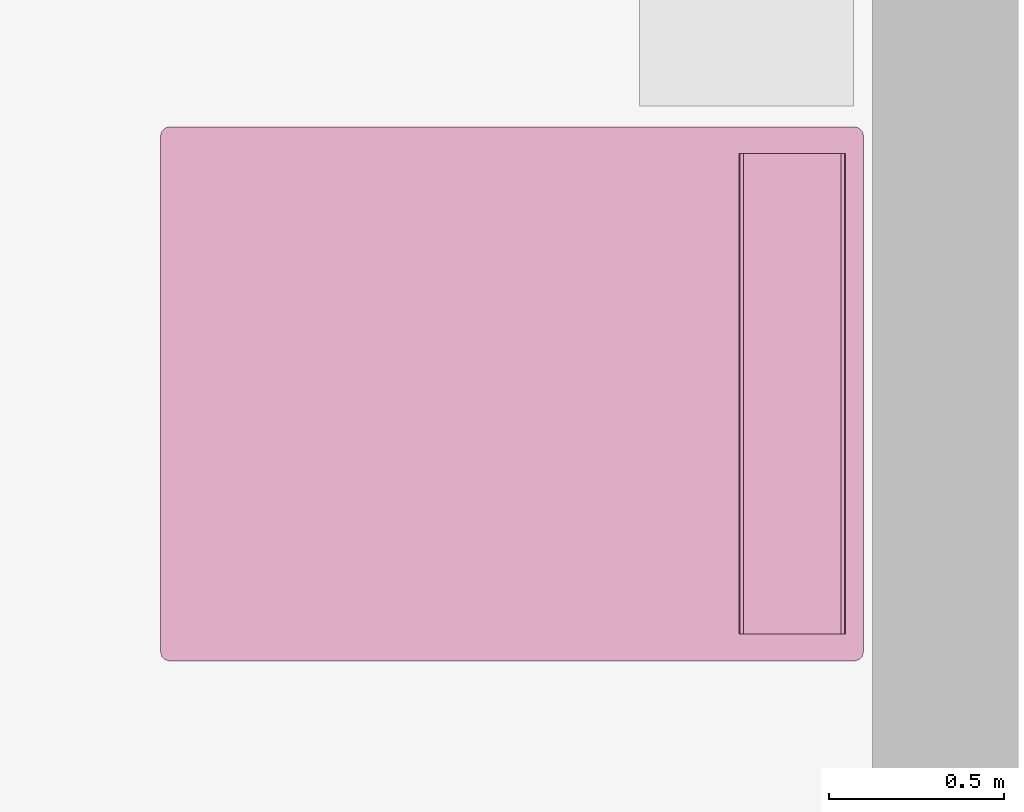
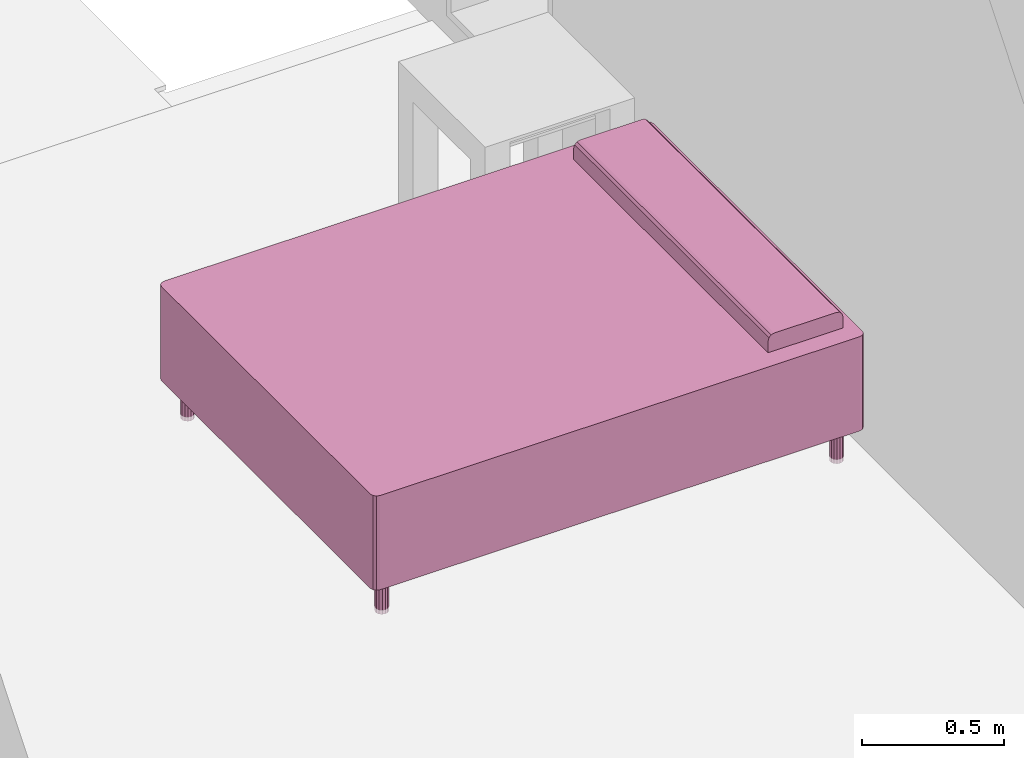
# One storey, part 9 of 16: 1 furnishing.
"""IFC4 building model written with IfcOpenShell, lengths in metres."""

from ifc_helpers import new_model, entity, si_unit, converted_unit, frame, origin, place, context, project, spatial, face_set, surface_model, source, transform, mapped, type_object, type_shapes, element, save


model = new_model("IFC4")

# Units and contexts
model_context = context("Model", 3, precision=1e-09, world=origin())
plan_context = context("Plan", 3, precision=1e-09, world=origin())
ifc_project = project(units=[si_unit("LENGTHUNIT", "METRE"), si_unit("AREAUNIT", "SQUARE_METRE"), si_unit("VOLUMEUNIT", "CUBIC_METRE"), converted_unit("PLANEANGLEUNIT", "DEGREE", entity("IfcRatioMeasure", 0.01745329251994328), si_unit("PLANEANGLEUNIT", "RADIAN"), dimensions=[0, 0, 0, 0, 0, 0, 0]), si_unit("TIMEUNIT", "SECOND")], contexts=[model_context, plan_context])

# Site, building, storey, space
site_placement = place(None, origin())
site = spatial("IfcSite", under=ifc_project, at=site_placement, Name="Default", CompositionType="ELEMENT")
building_placement = place(site_placement, origin())
building = spatial("IfcBuilding", under=site, at=building_placement, CompositionType="ELEMENT")
storey_placement = place(building_placement, frame((0.0, 0.0, 3.100000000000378)))
storey = spatial("IfcBuildingStorey", under=building, at=storey_placement, Name="Level 2", CompositionType="ELEMENT", Elevation=3.100000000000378)
space_placement = place(storey_placement, origin())
space = spatial("IfcSpace", under=storey, at=space_placement, Name="A203", CompositionType="ELEMENT", PredefinedType="SPACE")

# Furnishing
furniture_type = type_object("IfcFurnitureType", Name="1525 x 2007mm - Queen", AssemblyPlace="NOTDEFINED")
shared_shape = source(origin(), model_context, "Body", "SurfaceModel", [
    surface_model("IfcFaceBasedSurfaceModel", [(0.001595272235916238, 0.02699527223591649, 0.3556), (0.001595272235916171, 1.983195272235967, 0.3556), (0.004998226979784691, 1.995895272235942, 0.3556), (0.01429527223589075, 2.005192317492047, 0.3556), (0.02699527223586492, 2.008595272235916, 0.3556), (1.501195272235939, 2.008595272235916, 0.3556), (1.513895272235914, 2.005192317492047, 0.3556), (1.523192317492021, 1.995895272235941, 0.3556), (1.52659527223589, 1.983195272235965, 0.3556), (1.52659527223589, 0.02699527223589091, 0.3556), (1.523192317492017, 0.01429527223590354, 0.3556), (1.513895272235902, 0.004998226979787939, 0.3556), (1.501195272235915, 0.001595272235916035, 0.3556), (0.02699527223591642, 0.001595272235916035, 0.3556), (0.01429527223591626, 0.004998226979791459, 0.3556), (0.004998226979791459, 0.0142952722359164, 0.3556), (0.001595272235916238, 0.02699527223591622, 0.1524), (0.001595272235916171, 1.983195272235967, 0.1524), (0.004998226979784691, 1.995895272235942, 0.1524), (0.01429527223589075, 2.005192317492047, 0.1524), (0.02699527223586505, 2.008595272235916, 0.1524), (1.501195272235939, 2.008595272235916, 0.1524), (1.513895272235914, 2.005192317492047, 0.1524), (1.523192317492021, 1.995895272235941, 0.1524), (1.52659527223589, 1.983195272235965, 0.1524), (1.52659527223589, 0.02699527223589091, 0.1524), (1.523192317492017, 0.01429527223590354, 0.1524), (1.513895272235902, 0.004998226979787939, 0.1524), (1.501195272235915, 0.001595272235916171, 0.1524), (0.02699527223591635, 0.001595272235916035, 0.1524), (0.01429527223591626, 0.004998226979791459, 0.1524), (0.004998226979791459, 0.0142952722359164, 0.1524), (0.003559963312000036, 0.01966295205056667, 0.1524000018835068), (0.003296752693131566, 0.02064530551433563, 0.3555999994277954), (0.0096467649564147, 0.009646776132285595, 0.3555999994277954), (0.0096467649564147, 0.009646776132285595, 0.1524000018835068), (0.02064525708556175, 0.003296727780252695, 0.1524000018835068), (0.01966294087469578, 0.003559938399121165, 0.3555999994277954), (1.508527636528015, 0.003559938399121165, 0.1524000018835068), (1.507545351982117, 0.003296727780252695, 0.3555999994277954), (1.518543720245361, 0.009646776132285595, 0.3555999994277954), (1.518543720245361, 0.009646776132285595, 0.1524000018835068), (1.524893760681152, 0.02064530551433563, 0.1524000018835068), (1.524630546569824, 0.01966295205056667, 0.3555999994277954), (1.524893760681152, 1.989545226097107, 0.3555999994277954), (1.524893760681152, 1.989545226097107, 0.1524000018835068), (1.518543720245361, 2.000543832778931, 0.3555999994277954), (1.518543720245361, 2.000543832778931, 0.1524000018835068), (1.507545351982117, 2.006893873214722, 0.1524000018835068), (1.508527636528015, 2.006630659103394, 0.3555999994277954), (0.01966294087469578, 2.006630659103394, 0.1524000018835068), (0.02064525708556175, 2.006893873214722, 0.3555999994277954), (0.0096467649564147, 2.000543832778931, 0.3555999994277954), (0.0096467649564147, 2.000543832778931, 0.1524000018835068), (0.003296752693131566, 1.989545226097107, 0.1524000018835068), (0.003559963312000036, 1.990527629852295, 0.3555999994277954), (0.07779527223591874, 1.652995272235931, 0.5588000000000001), (0.07779527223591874, 1.652995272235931, 0.6096), (0.07779527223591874, 1.656398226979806, 0.6223), (0.07779527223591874, 1.665695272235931, 0.6315970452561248), (0.07779527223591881, 1.678395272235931, 0.6349999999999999), (0.07779527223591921, 1.932395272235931, 0.6349999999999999), (0.07779527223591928, 1.945095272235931, 0.6315970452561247), (0.07779527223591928, 1.954392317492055, 0.6222999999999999), (0.07779527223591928, 1.957795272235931, 0.6095999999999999), (0.07779527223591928, 1.957795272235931, 0.5588000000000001), (1.45039527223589, 1.652995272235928, 0.5588000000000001), (1.450395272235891, 1.957795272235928, 0.5588000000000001), (1.450395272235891, 1.957795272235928, 0.6095999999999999), (1.450395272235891, 1.954392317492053, 0.6222999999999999), (1.450395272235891, 1.945095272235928, 0.6315970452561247), (1.450395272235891, 1.932395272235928, 0.6349999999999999), (1.45039527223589, 1.678395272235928, 0.6349999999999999), (1.45039527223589, 1.665695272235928, 0.6315970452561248), (1.45039527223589, 1.656398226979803, 0.6223), (1.45039527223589, 1.652995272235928, 0.6096), (0.07779525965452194, 1.655322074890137, 0.6182838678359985), (1.450395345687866, 1.654696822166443, 0.6159499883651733), (0.07779525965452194, 1.654158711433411, 0.6139419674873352), (0.07779525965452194, 1.674053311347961, 0.6338366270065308), (1.450395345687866, 1.672045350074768, 0.6332985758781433), (0.07779525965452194, 1.661046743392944, 0.6269484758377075), (1.450395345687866, 1.661046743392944, 0.6269484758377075), (0.07779525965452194, 1.669711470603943, 0.6326731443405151), (1.450395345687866, 1.941079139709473, 0.6326731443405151), (0.07779525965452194, 1.956631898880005, 0.6139419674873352), (1.450395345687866, 1.956093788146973, 0.6159499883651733), (0.07779525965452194, 1.938745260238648, 0.6332985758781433), (1.450395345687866, 1.936737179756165, 0.6338366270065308), (0.07779525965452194, 1.949743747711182, 0.6269484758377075), (1.450395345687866, 1.949743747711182, 0.6269484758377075), (0.07779525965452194, 1.955468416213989, 0.6182838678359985), (0.1031952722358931, 1.932395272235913, 0.1524), (0.1006798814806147, 1.921374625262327, 0.1524), (0.09363191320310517, 1.912536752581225, 0.1524), (0.08344730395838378, 1.907632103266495, 0.1524), (0.0721432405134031, 1.907632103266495, 0.1524), (0.06195863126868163, 1.912536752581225, 0.1524), (0.05491066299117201, 1.921374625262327, 0.1524), (0.05239527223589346, 1.932395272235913, 0.1524), (0.05491066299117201, 1.943415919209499, 0.1524), (0.06195863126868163, 1.9522537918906, 0.1524), (0.07214324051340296, 1.957158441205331, 0.1524), (0.0834473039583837, 1.957158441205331, 0.1524), (0.09363191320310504, 1.9522537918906, 0.1524), (0.1006798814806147, 1.943415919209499, 0.1524), (1.475795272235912, 1.93239527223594, 0.1524), (1.473279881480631, 1.921374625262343, 0.1524), (1.466231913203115, 1.912536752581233, 0.1524), (1.456047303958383, 1.907632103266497, 0.1524), (1.444743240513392, 1.907632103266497, 0.1524), (1.434558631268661, 1.912536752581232, 0.1524), (1.427510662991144, 1.921374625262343, 0.1524), (1.424995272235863, 1.932395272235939, 0.1524), (1.427510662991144, 1.943415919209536, 0.1524), (1.434558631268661, 1.952253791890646, 0.1524), (1.444743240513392, 1.957158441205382, 0.1524), (1.456047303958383, 1.957158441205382, 0.1524), (1.466231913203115, 1.952253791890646, 0.1524), (1.473279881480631, 1.943415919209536, 0.1524), (1.475795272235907, 0.07779527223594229, 0.1524), (1.473279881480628, 0.06677462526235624, 0.1524), (1.466231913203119, 0.05793675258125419, 0.1524), (1.456047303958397, 0.05303210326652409, 0.1524), (1.444743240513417, 0.05303210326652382, 0.1524), (1.434558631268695, 0.05793675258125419, 0.1524), (1.427510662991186, 0.06677462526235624, 0.1524), (1.424995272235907, 0.07779527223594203, 0.1524), (1.427510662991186, 0.08881591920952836, 0.1524), (1.434558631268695, 0.09765379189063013, 0.1524), (1.444743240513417, 0.1025584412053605, 0.1524), (1.456047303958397, 0.1025584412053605, 0.1524), (1.466231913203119, 0.09765379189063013, 0.1524), (1.473279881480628, 0.0888159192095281, 0.1524), (0.1031952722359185, 0.07779527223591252, 0.1524), (0.1006798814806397, 0.0667746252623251, 0.1524), (0.0936319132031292, 0.0579367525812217, 0.1524), (0.08344730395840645, 0.05303210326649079, 0.1524), (0.07214324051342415, 0.05303210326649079, 0.1524), (0.06195863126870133, 0.0579367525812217, 0.1524), (0.05491066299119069, 0.06677462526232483, 0.1524), (0.0523952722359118, 0.07779527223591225, 0.1524), (0.05491066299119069, 0.08881591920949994, 0.1524), (0.06195863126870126, 0.09765379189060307, 0.1524), (0.07214324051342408, 0.102558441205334, 0.1524), (0.08344730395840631, 0.102558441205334, 0.1524), (0.09363191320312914, 0.09765379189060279, 0.1524), (0.1006798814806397, 0.08881591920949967, 0.1524), (0.1031952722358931, 1.932395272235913, 0.0), (0.1006798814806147, 1.921374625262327, 0.0), (0.09363191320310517, 1.912536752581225, 0.0), (0.08344730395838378, 1.907632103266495, 0.0), (0.0721432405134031, 1.907632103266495, 0.0), (0.06195863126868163, 1.912536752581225, 0.0), (0.05491066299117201, 1.921374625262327, 0.0), (0.05239527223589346, 1.932395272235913, 0.0), (0.05491066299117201, 1.943415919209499, 0.0), (0.06195863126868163, 1.9522537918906, 0.0), (0.07214324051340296, 1.957158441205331, 0.0), (0.0834473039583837, 1.957158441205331, 0.0), (0.09363191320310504, 1.9522537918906, 0.0), (0.1006798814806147, 1.943415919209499, 0.0), (1.475795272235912, 1.932395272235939, 0.0), (1.473279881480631, 1.921374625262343, 0.0), (1.466231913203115, 1.912536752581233, 0.0), (1.456047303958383, 1.907632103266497, 0.0), (1.444743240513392, 1.907632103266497, 0.0), (1.434558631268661, 1.912536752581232, 0.0), (1.427510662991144, 1.921374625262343, 0.0), (1.424995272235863, 1.93239527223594, 0.0), (1.427510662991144, 1.943415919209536, 0.0), (1.434558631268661, 1.952253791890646, 0.0), (1.444743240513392, 1.957158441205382, 0.0), (1.456047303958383, 1.957158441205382, 0.0), (1.466231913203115, 1.952253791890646, 0.0), (1.473279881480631, 1.943415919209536, 0.0), (1.475795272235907, 0.07779527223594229, 0.0), (1.473279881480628, 0.06677462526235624, 0.0), (1.466231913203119, 0.05793675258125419, 0.0), (1.456047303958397, 0.05303210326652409, 0.0), (1.444743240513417, 0.05303210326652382, 0.0), (1.434558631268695, 0.05793675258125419, 0.0), (1.427510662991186, 0.06677462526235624, 0.0), (1.424995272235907, 0.07779527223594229, 0.0), (1.427510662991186, 0.08881591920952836, 0.0), (1.434558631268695, 0.09765379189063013, 0.0), (1.444743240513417, 0.1025584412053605, 0.0), (1.456047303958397, 0.1025584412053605, 0.0), (1.466231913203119, 0.09765379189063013, 0.0), (1.473279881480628, 0.0888159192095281, 0.0), (0.1031952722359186, 0.07779527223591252, 0.0), (0.1006798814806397, 0.0667746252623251, 0.0), (0.0936319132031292, 0.0579367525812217, 0.0), (0.08344730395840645, 0.05303210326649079, 0.0), (0.07214324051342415, 0.05303210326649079, 0.0), (0.06195863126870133, 0.0579367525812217, 0.0), (0.05491066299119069, 0.06677462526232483, 0.0), (0.05239527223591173, 0.07779527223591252, 0.0), (0.05491066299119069, 0.08881591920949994, 0.0), (0.06195863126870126, 0.09765379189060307, 0.0), (0.07214324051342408, 0.102558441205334, 0.0), (0.08344730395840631, 0.102558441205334, 0.0), (0.09363191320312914, 0.09765379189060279, 0.0), (0.1006798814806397, 0.08881591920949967, 0.0), (0.05365298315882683, 1.926885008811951, 0.1524000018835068), (0.0584346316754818, 1.916955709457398, 0.0), (0.0584346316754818, 1.916955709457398, 0.1524000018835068), (0.1020657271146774, 1.927446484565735, 0.1524000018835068), (0.1019375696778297, 1.926885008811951, 0.0), (0.06705092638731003, 1.910084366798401, 0.0), (0.06705092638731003, 1.910084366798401, 0.1524000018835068), (0.05352479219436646, 1.927446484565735, 0.0), (0.07779525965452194, 1.907632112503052, 0.1524000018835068), (0.07779525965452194, 1.907632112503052, 0.0), (0.08853962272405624, 1.910084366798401, 0.0), (0.08853962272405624, 1.910084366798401, 0.1524000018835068), (0.09715588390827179, 1.916955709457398, 0.1524000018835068), (0.09715588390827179, 1.916955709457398, 0.0), (0.1020657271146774, 1.937344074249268, 0.0), (0.1019375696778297, 1.937905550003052, 0.1524000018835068), (0.09715588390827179, 1.947834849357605, 0.0), (0.09715588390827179, 1.947834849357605, 0.1524000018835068), (0.08853962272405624, 1.954706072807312, 0.1524000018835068), (0.08853962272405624, 1.954706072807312, 0.0), (0.07779525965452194, 1.957158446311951, 0.1524000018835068), (0.07779525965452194, 1.957158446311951, 0.0), (0.06705092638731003, 1.954706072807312, 0.1524000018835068), (0.06705092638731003, 1.954706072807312, 0.0), (0.05352479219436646, 1.937344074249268, 0.1524000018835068), (0.0584346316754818, 1.947834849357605, 0.1524000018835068), (0.0584346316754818, 1.947834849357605, 0.0), (0.05365298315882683, 1.937905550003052, 0.0), (1.426252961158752, 1.926885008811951, 0.1524000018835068), (1.431034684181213, 1.916955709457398, 0.0), (1.431034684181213, 1.916955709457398, 0.1524000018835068), (1.47453761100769, 1.926885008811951, 0.0), (1.474665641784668, 1.927446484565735, 0.1524000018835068), (1.439650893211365, 1.910084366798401, 0.0), (1.439650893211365, 1.910084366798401, 0.1524000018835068), (1.426124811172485, 1.927446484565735, 0.0), (1.450395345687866, 1.907632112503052, 0.1524000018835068), (1.450395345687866, 1.907632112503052, 0.0), (1.461139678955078, 1.910084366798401, 0.0), (1.461139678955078, 1.910084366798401, 0.1524000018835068), (1.46975588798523, 1.916955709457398, 0.1524000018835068), (1.46975588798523, 1.916955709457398, 0.0), (1.474665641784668, 1.937344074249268, 0.0), (1.47453761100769, 1.937905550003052, 0.1524000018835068), (1.46975588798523, 1.947834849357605, 0.0), (1.46975588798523, 1.947834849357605, 0.1524000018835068), (1.461139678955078, 1.954706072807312, 0.1524000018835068), (1.461139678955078, 1.954706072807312, 0.0), (1.450395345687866, 1.957158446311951, 0.1524000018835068), (1.450395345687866, 1.957158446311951, 0.0), (1.439650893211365, 1.954706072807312, 0.1524000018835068), (1.439650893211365, 1.954706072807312, 0.0), (1.426124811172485, 1.937344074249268, 0.1524000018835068), (1.431034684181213, 1.947834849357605, 0.1524000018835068), (1.431034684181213, 1.947834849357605, 0.0), (1.426252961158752, 1.937905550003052, 0.0), (1.426252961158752, 0.07228495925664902, 0.1524000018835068), (1.431034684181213, 0.06235569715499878, 0.0), (1.431034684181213, 0.06235569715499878, 0.1524000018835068), (1.47453761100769, 0.07228495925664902, 0.0), (1.474665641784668, 0.07284647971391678, 0.1524000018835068), (1.439650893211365, 0.05548445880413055, 0.1524000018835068), (1.439650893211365, 0.05548445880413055, 0.0), (1.426124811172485, 0.07284647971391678, 0.0), (1.450395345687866, 0.05303213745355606, 0.0), (1.450395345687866, 0.05303213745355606, 0.1524000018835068), (1.461139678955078, 0.05548445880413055, 0.1524000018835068), (1.461139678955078, 0.05548445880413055, 0.0), (1.46975588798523, 0.06235569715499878, 0.1524000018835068), (1.46975588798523, 0.06235569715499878, 0.0), (1.474665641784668, 0.08274412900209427, 0.0), (1.47453761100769, 0.08330558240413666, 0.1524000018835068), (1.46975588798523, 0.0932348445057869, 0.1524000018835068), (1.46975588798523, 0.0932348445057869, 0.0), (1.461139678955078, 0.1001060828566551, 0.0), (1.461139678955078, 0.1001060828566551, 0.1524000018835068), (1.450395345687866, 0.102558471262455, 0.0), (1.450395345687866, 0.102558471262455, 0.1524000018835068), (1.439650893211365, 0.1001060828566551, 0.0), (1.439650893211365, 0.1001060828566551, 0.1524000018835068), (1.426124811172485, 0.08274412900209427, 0.1524000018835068), (1.431034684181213, 0.0932348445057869, 0.0), (1.431034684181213, 0.0932348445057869, 0.1524000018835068), (1.426252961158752, 0.08330558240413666, 0.0), (0.05365298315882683, 0.07228495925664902, 0.1524000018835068), (0.0584346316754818, 0.06235569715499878, 0.1524000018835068), (0.0584346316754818, 0.06235569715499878, 0.0), (0.1020657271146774, 0.07284647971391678, 0.1524000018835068), (0.1019375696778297, 0.07228495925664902, 0.0), (0.06705092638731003, 0.05548445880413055, 0.1524000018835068), (0.06705092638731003, 0.05548445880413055, 0.0), (0.05352479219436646, 0.07284647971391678, 0.0), (0.07779525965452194, 0.05303213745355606, 0.0), (0.07779525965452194, 0.05303213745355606, 0.1524000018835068), (0.08853962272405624, 0.05548445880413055, 0.1524000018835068), (0.08853962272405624, 0.05548445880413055, 0.0), (0.09715588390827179, 0.06235569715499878, 0.1524000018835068), (0.09715588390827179, 0.06235569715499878, 0.0), (0.1020657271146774, 0.08274412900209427, 0.0), (0.1019375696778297, 0.08330558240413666, 0.1524000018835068), (0.09715588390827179, 0.0932348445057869, 0.1524000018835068), (0.09715588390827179, 0.0932348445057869, 0.0), (0.08853962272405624, 0.1001060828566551, 0.0), (0.08853962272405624, 0.1001060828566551, 0.1524000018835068), (0.07779525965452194, 0.102558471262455, 0.0), (0.07779525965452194, 0.102558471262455, 0.1524000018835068), (0.06705092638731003, 0.1001060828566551, 0.0), (0.06705092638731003, 0.1001060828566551, 0.1524000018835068), (0.05352479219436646, 0.08274412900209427, 0.1524000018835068), (0.0584346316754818, 0.0932348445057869, 0.0), (0.0584346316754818, 0.0932348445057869, 0.1524000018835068), (0.05365298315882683, 0.08330558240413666, 0.0), (0.02699527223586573, 2.008595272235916, 0.5588000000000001), (1.50119527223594, 2.008595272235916, 0.5588000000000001), (1.513895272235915, 2.005192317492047, 0.5588000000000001), (1.523192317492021, 1.995895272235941, 0.5588000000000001), (1.52659527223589, 1.983195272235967, 0.5588000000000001), (1.52659527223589, 0.02699527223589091, 0.5588000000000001), (1.523192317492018, 0.01429527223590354, 0.5588000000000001), (1.513895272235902, 0.004998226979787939, 0.5588000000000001), (1.501195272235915, 0.001595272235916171, 0.5588000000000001), (0.02699527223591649, 0.001595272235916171, 0.5588000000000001), (0.01429527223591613, 0.004998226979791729, 0.5588000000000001), (0.004998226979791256, 0.01429527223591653, 0.5588000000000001), (0.001595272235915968, 0.02699527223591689, 0.5588000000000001), (0.001595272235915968, 1.983195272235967, 0.5588000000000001), (0.004998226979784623, 1.995895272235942, 0.5588000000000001), (0.01429527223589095, 2.005192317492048, 0.5588000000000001), (0.02699527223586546, 2.008595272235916, 0.3556), (1.50119527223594, 2.008595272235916, 0.3556), (1.513895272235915, 2.005192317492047, 0.3556), (1.523192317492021, 1.995895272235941, 0.3556), (1.52659527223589, 1.983195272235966, 0.3556), (1.52659527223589, 0.02699527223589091, 0.3556), (1.523192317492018, 0.01429527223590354, 0.3556), (1.513895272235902, 0.004998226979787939, 0.3556), (1.501195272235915, 0.001595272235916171, 0.3556), (0.02699527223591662, 0.001595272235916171, 0.3556), (0.01429527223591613, 0.004998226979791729, 0.3556), (0.004998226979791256, 0.01429527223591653, 0.3556), (0.001595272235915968, 0.02699527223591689, 0.3556), (0.001595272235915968, 1.983195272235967, 0.3556), (0.004998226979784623, 1.995895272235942, 0.3556), (0.01429527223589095, 2.005192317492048, 0.3556), (0.01966294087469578, 2.006630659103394, 0.3555999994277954), (0.02064525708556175, 2.006893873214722, 0.5588000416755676), (0.0096467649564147, 2.000543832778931, 0.5588000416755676), (0.0096467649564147, 2.000543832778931, 0.3555999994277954), (0.003296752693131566, 1.989545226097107, 0.3555999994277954), (0.003559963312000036, 1.990527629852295, 0.5588000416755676), (0.003559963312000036, 0.01966295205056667, 0.3555999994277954), (0.003296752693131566, 0.02064530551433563, 0.5588000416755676), (0.0096467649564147, 0.009646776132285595, 0.5588000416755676), (0.0096467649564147, 0.009646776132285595, 0.3555999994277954), (0.02064525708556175, 0.003296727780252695, 0.3555999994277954), (0.01966294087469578, 0.003559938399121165, 0.5588000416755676), (1.508527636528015, 0.003559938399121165, 0.3555999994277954), (1.507545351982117, 0.003296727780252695, 0.5588000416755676), (1.518543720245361, 0.009646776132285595, 0.5588000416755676), (1.518543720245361, 0.009646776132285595, 0.3555999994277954), (1.524893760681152, 0.02064530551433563, 0.3555999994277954), (1.524630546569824, 0.01966295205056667, 0.5588000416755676), (1.524630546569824, 1.990527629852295, 0.3555999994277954), (1.524893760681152, 1.989545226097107, 0.5588000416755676), (1.518543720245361, 2.000543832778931, 0.5588000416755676), (1.518543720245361, 2.000543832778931, 0.3555999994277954), (1.507545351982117, 2.006893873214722, 0.3555999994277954), (1.508527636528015, 2.006630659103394, 0.5588000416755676)], [face_set([[[0, 1, 2, 3, 4, 5, 6, 7, 8, 9, 10, 11, 12, 13, 14, 15]], [[16, 17, 18, 19, 20, 21, 22, 23, 24, 25, 26, 27, 28, 29, 30, 31]], [[15, 32, 31]], [[32, 15, 33]], [[33, 0, 16]], [[34, 35, 30, 14]], [[16, 32, 33]], [[36, 29, 13]], [[37, 30, 36]], [[35, 34, 15, 31]], [[30, 37, 14]], [[13, 37, 36]], [[12, 28, 29, 13]], [[11, 38, 27]], [[38, 11, 39]], [[39, 12, 28]], [[40, 41, 26, 10]], [[28, 38, 39]], [[42, 25, 9]], [[43, 26, 42]], [[41, 40, 11, 27]], [[26, 43, 10]], [[9, 43, 42]], [[8, 9, 25, 24]], [[44, 8, 24, 45]], [[44, 45, 23, 7]], [[46, 47, 22, 6]], [[48, 21, 5]], [[5, 49, 48]], [[22, 49, 6]], [[47, 46, 7, 23]], [[49, 22, 48]], [[4, 5, 21, 20]], [[3, 50, 19]], [[50, 3, 51]], [[51, 4, 20]], [[52, 53, 18, 2]], [[20, 50, 51]], [[54, 17, 1]], [[55, 18, 54]], [[53, 52, 3, 19]], [[18, 55, 2]], [[1, 55, 54]], [[0, 1, 17, 16]]]), face_set([[[56, 57, 58, 59, 60, 61, 62, 63, 64, 65]], [[66, 67, 68, 69, 70, 71, 72, 73, 74, 75]], [[57, 56, 66, 75]], [[74, 76, 77]], [[78, 75, 77]], [[72, 79, 80]], [[77, 76, 78]], [[81, 82, 73, 59]], [[78, 57, 75]], [[60, 79, 72]], [[83, 80, 79]], [[73, 83, 59]], [[82, 81, 58, 74]], [[83, 73, 80]], [[74, 58, 76]], [[61, 71, 72, 60]], [[62, 84, 70]], [[68, 85, 86]], [[84, 62, 87]], [[71, 88, 61]], [[89, 90, 69, 63]], [[84, 87, 88]], [[64, 85, 68]], [[91, 69, 86]], [[90, 89, 62, 70]], [[69, 91, 63]], [[91, 86, 85]], [[61, 88, 87]], [[65, 67, 68, 64]], [[56, 65, 67, 66]]]), face_set([[[92, 93, 94, 95, 96, 97, 98, 99, 100, 101, 102, 103, 104, 105]], [[106, 107, 108, 109, 110, 111, 112, 113, 114, 115, 116, 117, 118, 119]], [[120, 121, 122, 123, 124, 125, 126, 127, 128, 129, 130, 131, 132, 133]], [[134, 135, 136, 137, 138, 139, 140, 141, 142, 143, 144, 145, 146, 147]], [[148, 149, 150, 151, 152, 153, 154, 155, 156, 157, 158, 159, 160, 161]], [[162, 163, 164, 165, 166, 167, 168, 169, 170, 171, 172, 173, 174, 175]], [[176, 177, 178, 179, 180, 181, 182, 183, 184, 185, 186, 187, 188, 189]], [[190, 191, 192, 193, 194, 195, 196, 197, 198, 199, 200, 201, 202, 203]], [[98, 204, 154]], [[97, 153, 205, 206]], [[207, 208, 93]], [[96, 152, 209, 210]], [[154, 204, 211]], [[204, 99, 211]], [[154, 98, 206, 205]], [[210, 209, 153, 97]], [[96, 212, 151, 213]], [[99, 155, 211]], [[94, 150, 214, 215]], [[150, 94, 216, 217]], [[93, 149, 217, 216]], [[151, 95, 215, 214]], [[208, 207, 148]], [[93, 208, 149]], [[212, 95, 151]], [[96, 213, 152]], [[207, 92, 148]], [[218, 148, 92]], [[219, 218, 92]], [[220, 160, 221, 105]], [[222, 223, 159, 103]], [[218, 219, 161]], [[161, 219, 105]], [[160, 104, 221]], [[220, 105, 161]], [[104, 160, 223, 222]], [[224, 225, 158, 102]], [[226, 227, 157, 101]], [[155, 99, 228]], [[229, 230, 156, 100]], [[230, 229, 101, 157]], [[155, 228, 231]], [[102, 158, 227, 226]], [[156, 231, 100]], [[225, 224, 103, 159]], [[100, 231, 228]], [[168, 232, 112]], [[111, 167, 233, 234]], [[107, 235, 236]], [[110, 166, 237, 238]], [[239, 232, 168]], [[239, 113, 232]], [[168, 112, 234, 233]], [[238, 237, 167, 111]], [[110, 240, 165, 241]], [[239, 169, 113]], [[108, 164, 242, 243]], [[164, 108, 244, 245]], [[107, 163, 245, 244]], [[165, 109, 243, 242]], [[162, 236, 235]], [[163, 235, 107]], [[240, 109, 165]], [[110, 241, 166]], [[162, 106, 236]], [[106, 162, 246]], [[106, 246, 247]], [[248, 174, 249, 119]], [[250, 251, 173, 117]], [[175, 247, 246]], [[119, 247, 175]], [[174, 118, 249]], [[248, 119, 175]], [[118, 174, 251, 250]], [[252, 253, 172, 116]], [[254, 255, 171, 115]], [[256, 113, 169]], [[257, 258, 170, 114]], [[258, 257, 115, 171]], [[259, 256, 169]], [[116, 172, 255, 254]], [[114, 259, 170]], [[253, 252, 117, 173]], [[256, 259, 114]], [[182, 260, 126]], [[261, 181, 262, 126]], [[121, 263, 264]], [[265, 266, 180, 124]], [[267, 260, 182]], [[267, 127, 260]], [[126, 182, 261]], [[125, 181, 266, 265]], [[181, 125, 262]], [[268, 179, 269, 124]], [[267, 183, 127]], [[270, 271, 178, 122]], [[272, 122, 273, 177]], [[271, 270, 123, 179]], [[177, 121, 272]], [[176, 264, 263]], [[122, 178, 273]], [[177, 263, 121]], [[179, 123, 269]], [[180, 268, 124]], [[176, 120, 264]], [[120, 176, 274]], [[120, 274, 275]], [[133, 276, 188, 277]], [[131, 187, 278, 279]], [[189, 275, 274]], [[133, 275, 189]], [[276, 132, 188]], [[189, 133, 277]], [[279, 278, 188, 132]], [[130, 186, 280, 281]], [[129, 185, 282, 283]], [[284, 127, 183]], [[128, 184, 285, 286]], [[185, 129, 286, 285]], [[287, 284, 183]], [[283, 282, 186, 130]], [[128, 287, 184]], [[187, 131, 281, 280]], [[284, 287, 128]], [[140, 288, 196]], [[289, 290, 195, 139]], [[291, 292, 135]], [[293, 294, 194, 138]], [[196, 288, 295]], [[288, 141, 295]], [[290, 289, 140, 196]], [[139, 195, 294, 293]], [[296, 193, 297, 138]], [[141, 197, 295]], [[298, 299, 192, 136]], [[300, 136, 301, 191]], [[299, 298, 137, 193]], [[191, 135, 300]], [[292, 291, 190]], [[136, 192, 301]], [[135, 292, 191]], [[193, 137, 297]], [[194, 296, 138]], [[291, 134, 190]], [[302, 190, 134]], [[303, 302, 134]], [[147, 304, 202, 305]], [[145, 201, 306, 307]], [[302, 303, 203]], [[203, 303, 147]], [[304, 146, 202]], [[203, 147, 305]], [[307, 306, 202, 146]], [[144, 200, 308, 309]], [[143, 199, 310, 311]], [[197, 141, 312]], [[142, 198, 313, 314]], [[199, 143, 314, 313]], [[197, 312, 315]], [[311, 310, 200, 144]], [[198, 315, 142]], [[201, 145, 309, 308]], [[142, 315, 312]]]), face_set([[[316, 317, 318, 319, 320, 321, 322, 323, 324, 325, 326, 327, 328, 329, 330, 331]], [[332, 333, 334, 335, 336, 337, 338, 339, 340, 341, 342, 343, 344, 345, 346, 347]], [[331, 348, 347]], [[348, 331, 349]], [[349, 316, 332]], [[350, 351, 346, 330]], [[332, 348, 349]], [[352, 345, 329]], [[353, 346, 352]], [[351, 350, 331, 347]], [[346, 353, 330]], [[329, 353, 352]], [[328, 329, 345, 344]], [[327, 354, 343]], [[354, 327, 355]], [[355, 328, 344]], [[356, 357, 342, 326]], [[344, 354, 355]], [[358, 341, 325]], [[359, 342, 358]], [[357, 356, 327, 343]], [[342, 359, 326]], [[325, 359, 358]], [[324, 340, 341, 325]], [[323, 360, 339]], [[360, 323, 361]], [[361, 324, 340]], [[362, 363, 338, 322]], [[340, 360, 361]], [[364, 337, 321]], [[365, 338, 364]], [[363, 362, 323, 339]], [[338, 365, 322]], [[321, 365, 364]], [[320, 321, 337, 336]], [[319, 366, 335]], [[366, 319, 367]], [[367, 320, 336]], [[368, 369, 334, 318]], [[336, 366, 367]], [[370, 333, 317]], [[371, 334, 370]], [[369, 368, 319, 335]], [[334, 371, 318]], [[317, 371, 370]], [[316, 317, 333, 332]]])]),
])
type_shapes(furniture_type, [shared_shape])
furnishing_placement = place(space_placement, frame((6.348404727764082, -13.2564047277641, 0.0), z_axis=(0.0, 0.0, 1.0), x_axis=(0.0, -1.0, 0.0)))
element("IfcFurnishingElement", 1, at=furnishing_placement, inside=space, type_object=furniture_type, Name="M_Bed-Standard:1525 x 2007mm - Queen:1525 x 2007mm - Queen", ObjectType="1525 x 2007mm - Queen", context=model_context, shape_type="MappedRepresentation", body=[
    mapped(shared_shape, transform((0.0, 0.0, 0.0), scale=1.0)),
])

save(model, "model.ifc")
